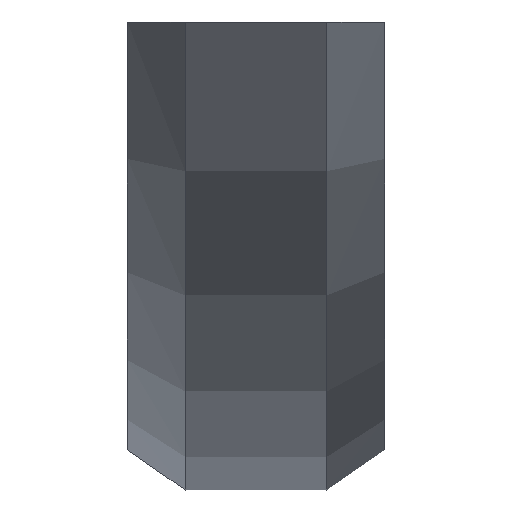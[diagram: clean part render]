
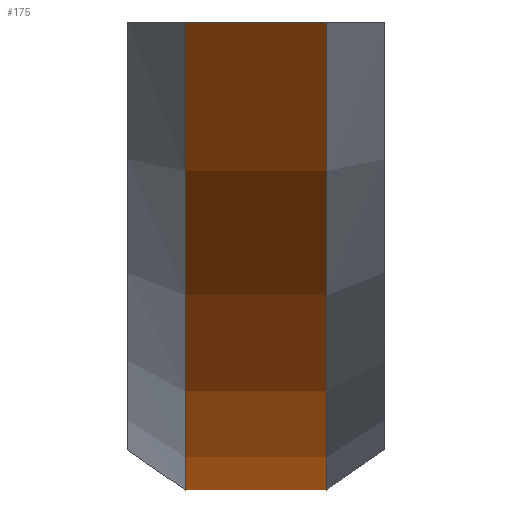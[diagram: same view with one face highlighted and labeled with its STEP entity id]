
A CAD part, front view. The second image highlights one B-rep face of the part: STEP entity #175.
In plain terms, the highlighted cylindrical face has radius 50 mm (diameter 100 mm), a partial arc.
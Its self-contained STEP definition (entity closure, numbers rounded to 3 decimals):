
#16=CYLINDRICAL_SURFACE('',#212,50.);
#22=CIRCLE('',#204,50.);
#26=CIRCLE('',#211,50.);
#34=FACE_OUTER_BOUND('',#44,.T.);
#44=EDGE_LOOP('',(#152,#153,#154,#155));
#55=LINE('',#281,#67);
#61=LINE('',#301,#73);
#67=VECTOR('',#224,10.);
#73=VECTOR('',#230,10.);
#80=VERTEX_POINT('',#276);
#81=VERTEX_POINT('',#280);
#88=VERTEX_POINT('',#296);
#89=VERTEX_POINT('',#300);
#96=EDGE_CURVE('',#81,#80,#55,.T.);
#104=EDGE_CURVE('',#89,#88,#61,.T.);
#110=EDGE_CURVE('',#81,#88,#22,.T.);
#114=EDGE_CURVE('',#80,#89,#26,.T.);
#152=ORIENTED_EDGE('',*,*,#104,.T.);
#153=ORIENTED_EDGE('',*,*,#110,.F.);
#154=ORIENTED_EDGE('',*,*,#96,.T.);
#155=ORIENTED_EDGE('',*,*,#114,.T.);
#175=ADVANCED_FACE('',(#34),#16,.T.);
#204=AXIS2_PLACEMENT_3D('',#313,#241,#242);
#211=AXIS2_PLACEMENT_3D('',#320,#255,#256);
#212=AXIS2_PLACEMENT_3D('',#321,#257,#258);
#224=DIRECTION('',(1.,0.,0.));
#230=DIRECTION('',(-1.,0.,0.));
#241=DIRECTION('center_axis',(-1.,0.,0.));
#242=DIRECTION('ref_axis',(0.,0.866,-0.5));
#255=DIRECTION('center_axis',(-1.,0.,0.));
#256=DIRECTION('ref_axis',(0.,0.866,-0.5));
#257=DIRECTION('center_axis',(-1.,0.,0.));
#258=DIRECTION('ref_axis',(0.,0.866,-0.5));
#276=CARTESIAN_POINT('',(2.7,38.419,0.));
#280=CARTESIAN_POINT('',(-2.7,38.419,0.));
#281=CARTESIAN_POINT('',(0.,38.419,0.));
#296=CARTESIAN_POINT('',(-2.7,-38.419,0.));
#300=CARTESIAN_POINT('',(2.7,-38.419,0.));
#301=CARTESIAN_POINT('',(0.,-38.419,0.));
#313=CARTESIAN_POINT('Origin',(-2.7,0.,32.));
#320=CARTESIAN_POINT('Origin',(2.7,0.,32.));
#321=CARTESIAN_POINT('Origin',(0.,0.,32.));
